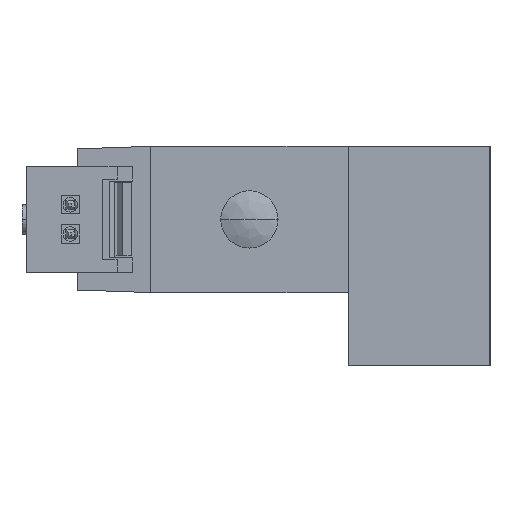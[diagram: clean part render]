
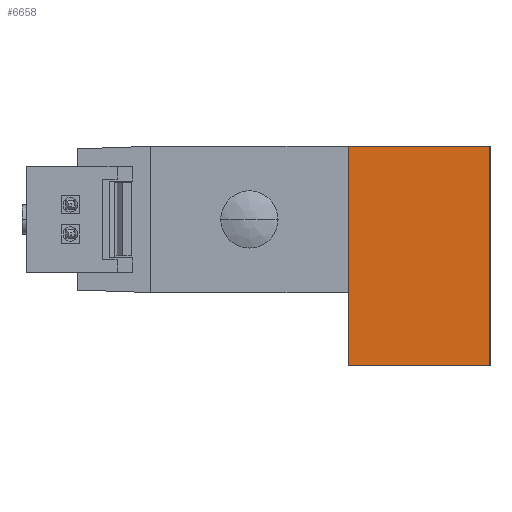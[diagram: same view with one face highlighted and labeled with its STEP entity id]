
A CAD part, left-side view. The second image highlights one B-rep face of the part: STEP entity #6658.
In plain terms, the highlighted planar face has unit normal (-1, 0, 0).
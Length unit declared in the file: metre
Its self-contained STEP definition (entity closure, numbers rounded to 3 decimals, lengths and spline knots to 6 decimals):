
#53 = EDGE_CURVE ( 'NONE', #4133, #7960, #3452, .T. ) ;
#83 = DIRECTION ( 'NONE',  ( -1., 0., 0. ) ) ;
#659 = LINE ( 'NONE', #2140, #4414 ) ;
#1453 = VECTOR ( 'NONE', #8555, 1. ) ;
#1534 = DIRECTION ( 'NONE',  ( 0., 1., 0. ) ) ;
#1571 = ORIENTED_EDGE ( 'NONE', *, *, #1872, .F. ) ;
#1872 = EDGE_CURVE ( 'NONE', #3762, #7712, #8800, .T. ) ;
#2052 = AXIS2_PLACEMENT_3D ( 'NONE', #8975, #83, #5294 ) ;
#2140 = CARTESIAN_POINT ( 'NONE',  ( -0.0095, 0., -0.0025 ) ) ;
#2149 = CARTESIAN_POINT ( 'NONE',  ( -0.0095, 0.0097, 0.005 ) ) ;
#2430 = CARTESIAN_POINT ( 'NONE',  ( -0.0095, 0., 0.005 ) ) ;
#2436 = EDGE_CURVE ( 'NONE', #4133, #3762, #659, .T. ) ;
#2488 = ORIENTED_EDGE ( 'NONE', *, *, #8202, .F. ) ;
#3395 = FACE_OUTER_BOUND ( 'NONE', #5741, .T. ) ;
#3452 = LINE ( 'NONE', #4134, #1453 ) ;
#3572 = ORIENTED_EDGE ( 'NONE', *, *, #53, .T. ) ;
#3762 = VERTEX_POINT ( 'NONE', #7270 ) ;
#3821 = PLANE ( 'NONE',  #2052 ) ;
#4133 = VERTEX_POINT ( 'NONE', #2430 ) ;
#4134 = CARTESIAN_POINT ( 'NONE',  ( -0.0095, 0.00485, 0.005 ) ) ;
#4414 = VECTOR ( 'NONE', #6642, 1. ) ;
#4654 = VECTOR ( 'NONE', #1534, 1. ) ;
#5294 = DIRECTION ( 'NONE',  ( 0., 0., 1. ) ) ;
#5741 = EDGE_LOOP ( 'NONE', ( #2488, #1571, #5771, #3572 ) ) ;
#5771 = ORIENTED_EDGE ( 'NONE', *, *, #2436, .F. ) ;
#6202 = CARTESIAN_POINT ( 'NONE',  ( -0.0095, 0.0097, -0.0025 ) ) ;
#6642 = DIRECTION ( 'NONE',  ( 0., 0., -1. ) ) ;
#6658 = ADVANCED_FACE ( 'NONE', ( #3395 ), #3821, .T. ) ;
#6733 = CARTESIAN_POINT ( 'NONE',  ( -0.0095, 0.00485, -0.01 ) ) ;
#7071 = VECTOR ( 'NONE', #7691, 1. ) ;
#7270 = CARTESIAN_POINT ( 'NONE',  ( -0.0095, 0., -0.01 ) ) ;
#7691 = DIRECTION ( 'NONE',  ( 0., 0., 1. ) ) ;
#7704 = CARTESIAN_POINT ( 'NONE',  ( -0.0095, 0.0097, -0.01 ) ) ;
#7712 = VERTEX_POINT ( 'NONE', #7704 ) ;
#7960 = VERTEX_POINT ( 'NONE', #2149 ) ;
#8202 = EDGE_CURVE ( 'NONE', #7712, #7960, #9019, .T. ) ;
#8555 = DIRECTION ( 'NONE',  ( 0., 1., 0. ) ) ;
#8800 = LINE ( 'NONE', #6733, #4654 ) ;
#8975 = CARTESIAN_POINT ( 'NONE',  ( -0.0095, 0., -0.01 ) ) ;
#9019 = LINE ( 'NONE', #6202, #7071 ) ;
